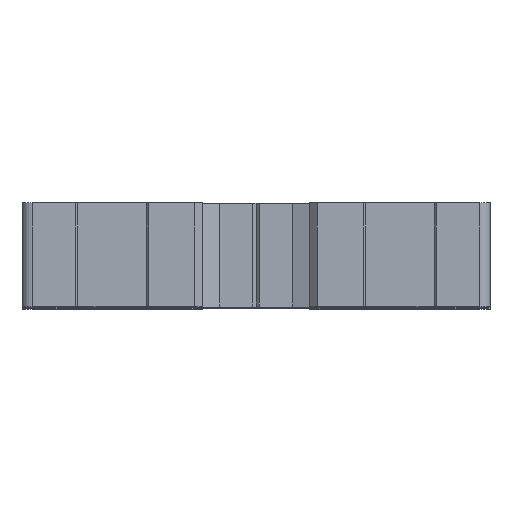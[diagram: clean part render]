
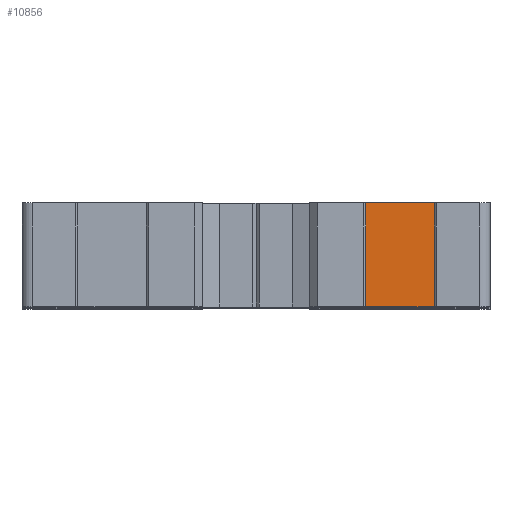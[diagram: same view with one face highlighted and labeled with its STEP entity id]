
A CAD part, top view. The second image highlights one B-rep face of the part: STEP entity #10856.
In plain terms, the highlighted planar face has unit normal (0, 0, 1).
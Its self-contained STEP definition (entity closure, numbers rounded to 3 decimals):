
#890=DIRECTION('',(-1.,0.,0.));
#891=VECTOR('',#890,6.6);
#892=CARTESIAN_POINT('',(17.13,0.,67.3));
#893=LINE('',#892,#891);
#2120=DIRECTION('',(-1.,0.,0.));
#2121=VECTOR('',#2120,6.6);
#2122=CARTESIAN_POINT('',(17.13,10.,67.3));
#2123=LINE('',#2122,#2121);
#4061=DIRECTION('',(0.,1.,0.));
#4062=VECTOR('',#4061,10.);
#4063=CARTESIAN_POINT('',(17.13,0.,67.3));
#4064=LINE('',#4063,#4062);
#4065=DIRECTION('',(0.,1.,0.));
#4066=VECTOR('',#4065,10.);
#4067=CARTESIAN_POINT('',(10.53,0.,67.3));
#4068=LINE('',#4067,#4066);
#5626=CARTESIAN_POINT('',(17.13,0.,67.3));
#5628=VERTEX_POINT('',#5626);
#5629=CARTESIAN_POINT('',(10.53,0.,67.3));
#5630=VERTEX_POINT('',#5629);
#5754=CARTESIAN_POINT('',(17.13,10.,67.3));
#5756=VERTEX_POINT('',#5754);
#5757=CARTESIAN_POINT('',(10.53,10.,67.3));
#5758=VERTEX_POINT('',#5757);
#10844=CARTESIAN_POINT('',(17.13,0.,67.3));
#10845=DIRECTION('',(0.,0.,-1.));
#10846=DIRECTION('',(-1.,0.,0.));
#10847=AXIS2_PLACEMENT_3D('',#10844,#10845,#10846);
#10848=PLANE('',#10847);
#10849=ORIENTED_EDGE('',*,*,#6252,.T.);
#10851=ORIENTED_EDGE('',*,*,#10850,.T.);
#10852=ORIENTED_EDGE('',*,*,#7194,.F.);
#10853=ORIENTED_EDGE('',*,*,#10837,.F.);
#10854=EDGE_LOOP('',(#10849,#10851,#10852,#10853));
#10855=FACE_OUTER_BOUND('',#10854,.F.);
#10856=ADVANCED_FACE('',(#10855),#10848,.F.);
#6252=EDGE_CURVE('',#5628,#5630,#893,.T.);
#7194=EDGE_CURVE('',#5756,#5758,#2123,.T.);
#10837=EDGE_CURVE('',#5628,#5756,#4064,.T.);
#10850=EDGE_CURVE('',#5630,#5758,#4068,.T.);
